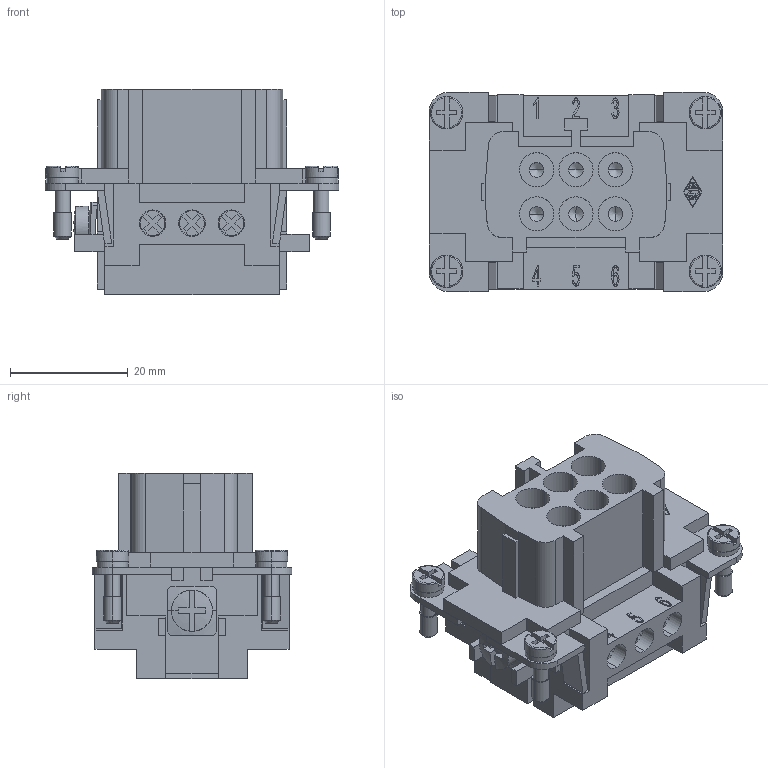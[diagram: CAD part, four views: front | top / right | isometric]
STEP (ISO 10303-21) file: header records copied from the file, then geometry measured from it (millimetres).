
FILE_DESCRIPTION (( 'STEP AP203' ), '1' );
FILE_NAME ('KEI6HO.STEP', '2013-05-08T11:03:04', ( '' ), ( '' ), 'SwSTEP 2.0', 'SolidWorks 2010', '' );
FILE_SCHEMA (( 'CONFIG_CONTROL_DESIGN' ));
Length unit declared in the file: millimetre
Products named in the file (1): KEI6HO
Bounding box: 50 x 34 x 35 mm (x, y, z)
Volume: 22685.5 mm3; surface area: 15850.6 mm2
Topology: 3 solids, 3 shells, 902 faces, 2440 edges, 1599 vertices
Faces by surface type: plane 602, cylinder 163, bspline 109, cone 20, torus 6, sphere 2
Entity records: 29848 total; most frequent: CARTESIAN_POINT 7632, ORIENTED_EDGE 4852, DIRECTION 4167, EDGE_CURVE 2426, LINE 1725, VECTOR 1725, VERTEX_POINT 1599, AXIS2_PLACEMENT_3D 1221
